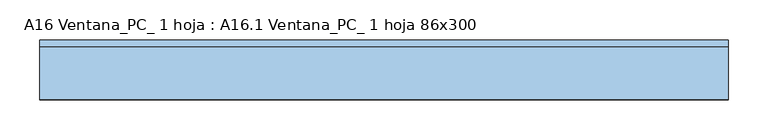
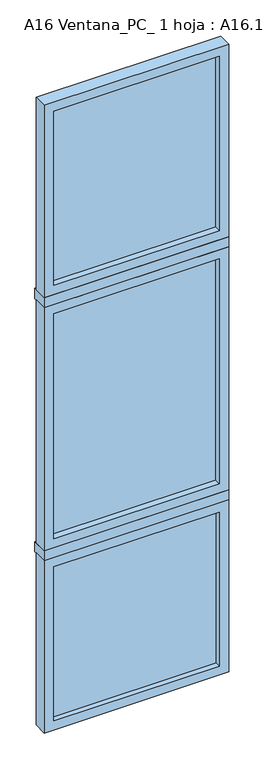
"""IFC4 building model written with IfcOpenShell, lengths in millimetres: window geometry, A16 Ventana_PC_ 1 hoja : A16.1 Ventana_PC_ 1 hoja 86x300."""

from ifc_helpers import new_model, si_unit, frame, origin, place, context, project, spatial, polyline, outline, extrude, source, transform, mapped, element, save


def a16_ventana_pc_1_hoja_a16_1_ventana_pc_1_hoja_86x300_f3b2f035(model_context):
    return source(origin(), model_context, "Body", "SweptSolid", [
        extrude(outline(polyline([(386.25, 37.5), (-386.25, 37.5), (-386.25, 53.5), (386.25, 53.5), (386.25, 37.5)])), frame((0.0, 0.0, 45.0), z_axis=(0.0, 0.0, 1.0), x_axis=(1.0, 0.0, 0.0)), (0.0, 0.0, 1.0), 760.0),
        extrude(outline(polyline([(386.25, 42.5), (-386.25, 42.5), (-386.25, 48.5), (386.25, 48.5), (386.25, 42.5)])), frame((0.0, 0.0, 2195.0), z_axis=(0.0, 0.0, 1.0), x_axis=(1.0, 0.0, 0.0)), (0.0, 0.0, 1.0), 860.0),
        extrude(outline(polyline([(386.25, 42.5), (-386.25, 42.5), (-386.25, 48.5), (386.25, 48.5), (386.25, 42.5)])), frame((0.0, 0.0, 945.0), z_axis=(0.0, 0.0, 1.0), x_axis=(1.0, 0.0, 0.0)), (0.0, 0.0, 1.0), 1110.0),
        extrude(outline(polyline([(850.0, -431.25), (0.0, -431.25), (0.0, 431.25), (850.0, 431.25), (850.0, -431.25)]), holes=[polyline([(805.0, -386.25), (805.0, 386.25), (45.0, 386.25), (45.0, -386.25), (805.0, -386.25)])]), frame((0.0, 12.5, 0.0), z_axis=(0.0, 1.0, 0.0), x_axis=(0.0, 0.0, 1.0)), (0.0, 0.0, 1.0), 66.0),
        extrude(outline(polyline([(3100.0, -431.25), (2150.0, -431.25), (2150.0, 431.25), (3100.0, 431.25), (3100.0, -431.25)]), holes=[polyline([(3055.0, -386.25), (3055.0, 386.25), (2195.0, 386.25), (2195.0, -386.25), (3055.0, -386.25)])]), frame((0.0, 12.5, 0.0), z_axis=(0.0, 1.0, 0.0), x_axis=(0.0, 0.0, 1.0)), (0.0, 0.0, 1.0), 66.0),
        extrude(outline(polyline([(2100.0, -431.25), (900.0, -431.25), (900.0, 431.25), (2100.0, 431.25), (2100.0, -431.25)]), holes=[polyline([(2055.0, -386.25), (2055.0, 386.25), (945.0, 386.25), (945.0, -386.25), (2055.0, -386.25)])]), frame((0.0, 12.5, 0.0), z_axis=(0.0, 1.0, 0.0), x_axis=(0.0, 0.0, 1.0)), (0.0, 0.0, 1.0), 66.0),
        extrude(outline(polyline([(431.25, 12.5), (-431.25, 12.5), (-431.25, 87.5), (431.25, 87.5), (431.25, 12.5)])), frame((0.0, 0.0, 2100.0), z_axis=(0.0, 0.0, 1.0), x_axis=(1.0, 0.0, 0.0)), (0.0, 0.0, 1.0), 50.0),
        extrude(outline(polyline([(431.25, 12.5), (-431.25, 12.5), (-431.25, 87.5), (431.25, 87.5), (431.25, 12.5)])), frame((0.0, 0.0, 850.0), z_axis=(0.0, 0.0, 1.0), x_axis=(1.0, 0.0, 0.0)), (0.0, 0.0, 1.0), 50.0),
    ])


if __name__ == "__main__":
    model = new_model("IFC4")
    model_context = context("Model", 3, world=origin())
    ifc_project = project(units=[si_unit("LENGTHUNIT", "METRE", prefix="MILLI")], contexts=[model_context])
    site = spatial("IfcSite", under=ifc_project)
    building = spatial("IfcBuilding", under=site)
    placement = place(None, origin())
    a16_ventana_pc_1_hoja_a16_1_ventana_pc_1_hoja_86x300_shape = a16_ventana_pc_1_hoja_a16_1_ventana_pc_1_hoja_86x300_f3b2f035(model_context)
    element("IfcWindow", 1, ObjectType="A16 Ventana_PC_ 1 hoja : A16.1 Ventana_PC_ 1 hoja 86x300", at=placement, inside=building, context=model_context, shape_type="MappedRepresentation", body=[
        mapped(a16_ventana_pc_1_hoja_a16_1_ventana_pc_1_hoja_86x300_shape, transform((0.0, 0.0, 0.0), x_axis=(1.0, 0.0, 0.0), y_axis=(0.0, 1.0, 0.0), z_axis=(0.0, 0.0, 1.0))),
    ])
    save(model, "model.ifc")
